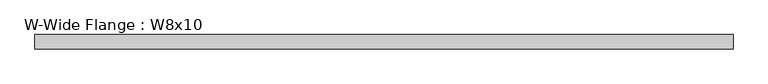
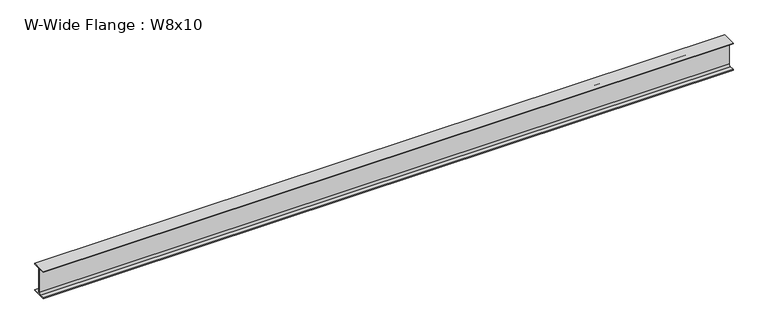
"""IFC4 building model written with IfcOpenShell, lengths in millimetres: beam geometry, W-Wide Flange : W8x10."""

from ifc_helpers import new_model, si_unit, point, frame, frame_2d, origin, place, context, project, spatial, polyline, circle_curve, trimmed, segment, composite_curve, outline, extrude, source, transform, mapped, element, save


def w_wide_flange_w8x10_f474adca(model_context):
    return source(origin(), model_context, "Body", "SweptSolid", [
        extrude(outline(composite_curve([segment(polyline([(50.038, -94.996), (50.038, -100.203), (-50.038, -100.203), (-50.038, -94.996), (-14.4145, -94.996)]), True, "CONTINUOUS"), segment(trimmed(circle_curve(frame_2d((-14.4145, -82.7405)), 12.2555), [point((-14.4145, -94.996))], [point((-2.159, -82.7405))], True, "CARTESIAN"), True, "CONTINUOUS"), segment(polyline([(-2.159, -82.7405), (-2.159, 82.7405)]), True, "CONTINUOUS"), segment(trimmed(circle_curve(frame_2d((-14.4145, 82.7405)), 12.2555), [point((-2.159, 82.7405))], [point((-14.4145, 94.996))], True, "CARTESIAN"), True, "CONTINUOUS"), segment(polyline([(-14.4145, 94.996), (-50.038, 94.996), (-50.038, 100.203), (50.038, 100.203), (50.038, 94.996), (14.4145, 94.996)]), True, "CONTINUOUS"), segment(trimmed(circle_curve(frame_2d((14.4145, 82.7405)), 12.2555), [point((14.4145, 94.996))], [point((2.159, 82.7405))], True, "CARTESIAN"), True, "CONTINUOUS"), segment(polyline([(2.159, 82.7405), (2.159, -82.7405)]), True, "CONTINUOUS"), segment(trimmed(circle_curve(frame_2d((14.4145, -82.7405)), 12.2555), [point((2.159, -82.7405))], [point((14.4145, -94.996))], True, "CARTESIAN"), True, "CONTINUOUS"), segment(polyline([(14.4145, -94.996), (50.038, -94.996)]), True, "CONTINUOUS")], self_intersect=False)), frame((-2463.8, 0.0, 0.0), z_axis=(1.0, 0.0, 0.0), x_axis=(0.0, 1.0, 0.0)), (0.0, 0.0, 1.0), 4832.477),
    ])


if __name__ == "__main__":
    model = new_model("IFC4")
    model_context = context("Model", 3, world=origin())
    ifc_project = project(units=[si_unit("LENGTHUNIT", "METRE", prefix="MILLI")], contexts=[model_context])
    site = spatial("IfcSite", under=ifc_project)
    building = spatial("IfcBuilding", under=site)
    placement = place(None, origin())
    w_wide_flange_w8x10_shape = w_wide_flange_w8x10_f474adca(model_context)
    element("IfcBeam", 1, ObjectType="W-Wide Flange : W8x10", at=placement, inside=building, context=model_context, shape_type="MappedRepresentation", body=[
        mapped(w_wide_flange_w8x10_shape, transform((0.0, 0.0, 0.0), x_axis=(1.0, 0.0, 0.0), y_axis=(0.0, 1.0, 0.0), z_axis=(0.0, 0.0, 1.0))),
    ])
    save(model, "model.ifc")
